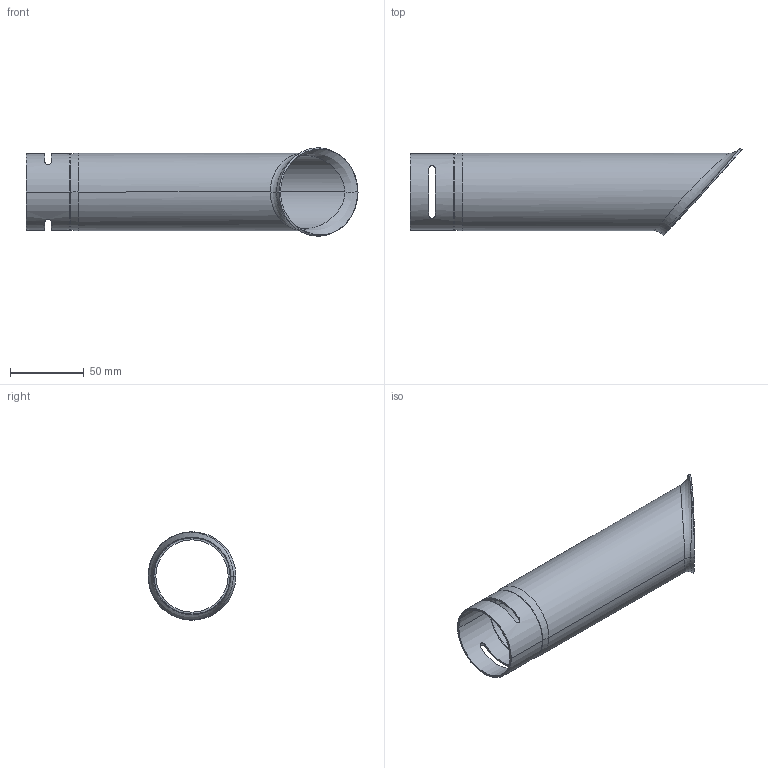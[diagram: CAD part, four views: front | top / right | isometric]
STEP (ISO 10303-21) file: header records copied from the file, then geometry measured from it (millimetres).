
FILE_DESCRIPTION((''),'2;1');
FILE_NAME('MES300-50','2015-12-08T',('Tomas Bellgran'),(''),'PRO/ENGINEER BY PARAMETRIC TECHNOLOGY CORPORATION, 2013410','PRO/ENGINEER BY PARAMETRIC TECHNOLOGY CORPORATION, 2013410','');
FILE_SCHEMA(('AUTOMOTIVE_DESIGN { 1 0 10303 214 1 1 1 1 }'));
Length unit declared in the file: millimetre
Products named in the file (1): MES300-50
Bounding box: 225.45 x 59.67 x 60 mm (x, y, z)
Volume: 41516.1 mm3; surface area: 64593.6 mm2
Topology: 1 solids, 1 shells, 35 faces, 82 edges, 48 vertices
Faces by surface type: bspline 14, cylinder 12, plane 5, torus 4
Entity records: 3168 total; most frequent: CARTESIAN_POINT 1865, ORIENTED_EDGE 164, DIRECTION 136, PRESENTATION_STYLE_ASSIGNMENT 83, STYLED_ITEM 83, CURVE_STYLE 82, EDGE_CURVE 82, AXIS2_PLACEMENT_3D 55
